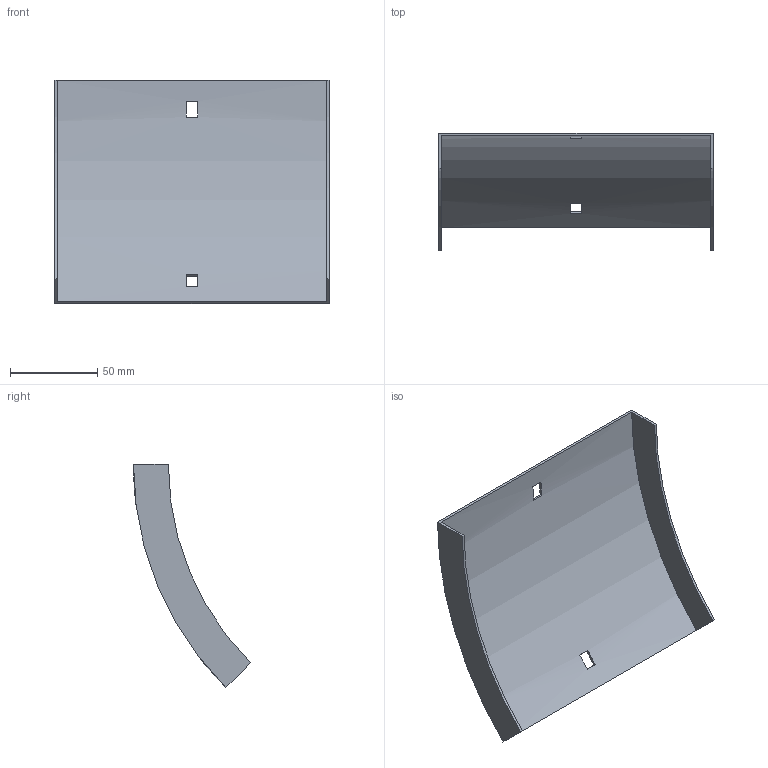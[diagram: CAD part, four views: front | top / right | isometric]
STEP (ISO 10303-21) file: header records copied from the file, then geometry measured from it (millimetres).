
FILE_DESCRIPTION (( 'STEP AP214' ), '1' );
FILE_NAME ('34N1C150.step', '2025-02-21T09:15:53', ( '' ), ( '' ), 'SwSTEP 2.0', 'SolidWorks 2023', '' );
FILE_SCHEMA (( 'AUTOMOTIVE_DESIGN' ));
Length unit declared in the file: millimetre
Products named in the file (1): 34N1C150
Bounding box: 157 x 67.01 x 127.63 mm (x, y, z)
Volume: 40469.9 mm3; surface area: 55015.2 mm2
Topology: 1 solids, 1 shells, 18 faces, 48 edges, 32 vertices
Faces by surface type: plane 14, cylinder 4
Entity records: 599 total; most frequent: DIRECTION 102, CARTESIAN_POINT 99, ORIENTED_EDGE 96, EDGE_CURVE 48, AXIS2_PLACEMENT_3D 35, VECTOR 32, LINE 32, VERTEX_POINT 32
